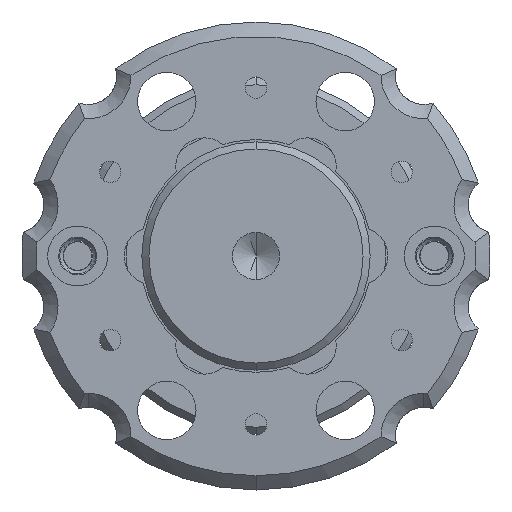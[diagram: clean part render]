
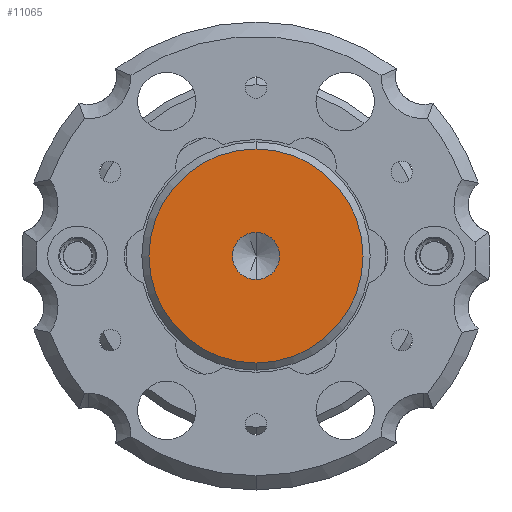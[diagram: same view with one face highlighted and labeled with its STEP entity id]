
A CAD part, front view. The second image highlights one B-rep face of the part: STEP entity #11065.
In plain terms, the highlighted planar face has unit normal (0, -1, 0) as drawn and (0, 1, 0) by its records, which use the part's own axes.
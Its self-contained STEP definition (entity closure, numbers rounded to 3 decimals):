
#1803 = DIRECTION ( 'NONE',  ( 0., 1., 0. ) ) ;
#1806 = DIRECTION ( 'NONE',  ( 0., 0., -1. ) ) ;
#3033 = CARTESIAN_POINT ( 'NONE',  ( 0., 12., 7.5 ) ) ;
#3037 = CARTESIAN_POINT ( 'NONE',  ( 0., 12., -7.5 ) ) ;
#3108 = CARTESIAN_POINT ( 'NONE',  ( 0., 12., -1.65 ) ) ;
#3221 = AXIS2_PLACEMENT_3D ( 'NONE', #3251, #3250, #3249 ) ;
#3247 = AXIS2_PLACEMENT_3D ( 'NONE', #3254, #1803, #1806 ) ;
#3249 = DIRECTION ( 'NONE',  ( 0., 0., 1. ) ) ;
#3250 = DIRECTION ( 'NONE',  ( 0., 1., 0. ) ) ;
#3251 = CARTESIAN_POINT ( 'NONE',  ( 0., 12., 0. ) ) ;
#3254 = CARTESIAN_POINT ( 'NONE',  ( 0., 12., 0. ) ) ;
#3256 = CIRCLE ( 'NONE', #3247, 7.5 ) ;
#3265 = CIRCLE ( 'NONE', #3221, 1.65 ) ;
#3270 = CARTESIAN_POINT ( 'NONE',  ( 0., 12., 1.65 ) ) ;
#3335 = CARTESIAN_POINT ( 'NONE',  ( 0., 12., 0. ) ) ;
#3337 = PLANE ( 'NONE',  #3355 ) ;
#3338 = FACE_BOUND ( 'NONE', #11068, .T. ) ;
#3340 = CIRCLE ( 'NONE', #3393, 1.65 ) ;
#3344 = CIRCLE ( 'NONE', #3394, 7.5 ) ;
#3355 = AXIS2_PLACEMENT_3D ( 'NONE', #3397, #3396, #3395 ) ;
#3357 = FACE_OUTER_BOUND ( 'NONE', #11005, .T. ) ;
#3386 = DIRECTION ( 'NONE',  ( 0., 0., -1. ) ) ;
#3387 = DIRECTION ( 'NONE',  ( 0., 1., 0. ) ) ;
#3388 = CARTESIAN_POINT ( 'NONE',  ( 0., 12., 0. ) ) ;
#3391 = DIRECTION ( 'NONE',  ( 0., 0., 1. ) ) ;
#3392 = DIRECTION ( 'NONE',  ( 0., 1., 0. ) ) ;
#3393 = AXIS2_PLACEMENT_3D ( 'NONE', #3335, #3392, #3391 ) ;
#3394 = AXIS2_PLACEMENT_3D ( 'NONE', #3388, #3387, #3386 ) ;
#3395 = DIRECTION ( 'NONE',  ( 0., 0., -1. ) ) ;
#3396 = DIRECTION ( 'NONE',  ( 0., -1., 0. ) ) ;
#3397 = CARTESIAN_POINT ( 'NONE',  ( -8., 12., 0. ) ) ;
#10925 = VERTEX_POINT ( 'NONE', #3108 ) ;
#10985 = VERTEX_POINT ( 'NONE', #3270 ) ;
#10989 = EDGE_CURVE ( 'NONE', #10925, #10985, #3265, .T. ) ;
#10995 = EDGE_CURVE ( 'NONE', #10999, #11000, #3256, .T. ) ;
#10999 = VERTEX_POINT ( 'NONE', #3033 ) ;
#11000 = VERTEX_POINT ( 'NONE', #3037 ) ;
#11005 = EDGE_LOOP ( 'NONE', ( #11011, #11076 ) ) ;
#11011 = ORIENTED_EDGE ( 'NONE', *, *, #11067, .T. ) ;
#11065 = ADVANCED_FACE ( 'NONE', ( #3357, #3338 ), #3337, .F. ) ;
#11066 = EDGE_CURVE ( 'NONE', #10985, #10925, #3340, .T. ) ;
#11067 = EDGE_CURVE ( 'NONE', #11000, #10999, #3344, .T. ) ;
#11068 = EDGE_LOOP ( 'NONE', ( #11070, #11069 ) ) ;
#11069 = ORIENTED_EDGE ( 'NONE', *, *, #10989, .F. ) ;
#11070 = ORIENTED_EDGE ( 'NONE', *, *, #11066, .F. ) ;
#11076 = ORIENTED_EDGE ( 'NONE', *, *, #10995, .T. ) ;
